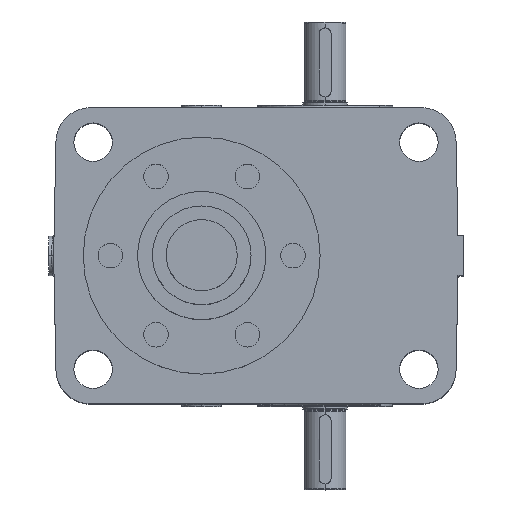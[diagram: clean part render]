
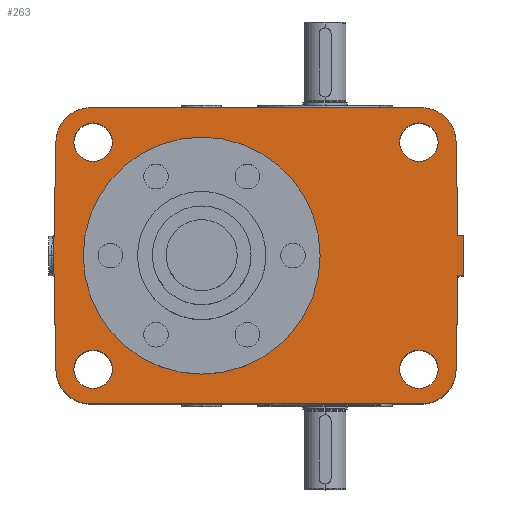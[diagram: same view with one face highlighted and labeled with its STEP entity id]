
A CAD part, top view. The second image highlights one B-rep face of the part: STEP entity #263.
In plain terms, the highlighted planar face has unit normal (0, 0, 1).
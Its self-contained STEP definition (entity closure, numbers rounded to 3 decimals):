
#263=ADVANCED_FACE('',(#931,#932,#933,#934,#935,#936),#937,.T.);
#931=FACE_OUTER_BOUND('',#3171,.T.);
#932=FACE_BOUND('',#3172,.T.);
#933=FACE_BOUND('',#3173,.T.);
#934=FACE_BOUND('',#3174,.T.);
#935=FACE_BOUND('',#3175,.T.);
#936=FACE_BOUND('',#3176,.T.);
#937=PLANE('',#3177);
#3171=EDGE_LOOP('',(#7116,#7117,#7118,#7119,#7120,#7121,#7122,#7123,#7124,#7125,#7126,#7127,#7128));
#3172=EDGE_LOOP('',(#7129,#7130));
#3173=EDGE_LOOP('',(#7131,#7132));
#3174=EDGE_LOOP('',(#7133,#7134));
#3175=EDGE_LOOP('',(#7135,#7136));
#3176=EDGE_LOOP('',(#7137,#7138));
#3177=AXIS2_PLACEMENT_3D('',#7139,#7140,#7141);
#7116=ORIENTED_EDGE('',*,*,#9860,.T.);
#7117=ORIENTED_EDGE('',*,*,#9773,.T.);
#7118=ORIENTED_EDGE('',*,*,#9782,.T.);
#7119=ORIENTED_EDGE('',*,*,#9794,.F.);
#7120=ORIENTED_EDGE('',*,*,#9833,.T.);
#7121=ORIENTED_EDGE('',*,*,#9843,.T.);
#7122=ORIENTED_EDGE('',*,*,#9712,.T.);
#7123=ORIENTED_EDGE('',*,*,#9709,.F.);
#7124=ORIENTED_EDGE('',*,*,#9844,.F.);
#7125=ORIENTED_EDGE('',*,*,#9792,.T.);
#7126=ORIENTED_EDGE('',*,*,#9768,.T.);
#7127=ORIENTED_EDGE('',*,*,#9865,.T.);
#7128=ORIENTED_EDGE('',*,*,#9863,.T.);
#7129=ORIENTED_EDGE('',*,*,#9897,.T.);
#7130=ORIENTED_EDGE('',*,*,#9457,.T.);
#7131=ORIENTED_EDGE('',*,*,#9641,.T.);
#7132=ORIENTED_EDGE('',*,*,#9898,.T.);
#7133=ORIENTED_EDGE('',*,*,#9633,.T.);
#7134=ORIENTED_EDGE('',*,*,#9899,.T.);
#7135=ORIENTED_EDGE('',*,*,#9625,.T.);
#7136=ORIENTED_EDGE('',*,*,#9900,.T.);
#7137=ORIENTED_EDGE('',*,*,#9617,.T.);
#7138=ORIENTED_EDGE('',*,*,#9901,.T.);
#7139=CARTESIAN_POINT('',(55.0,0.,300.0));
#7140=DIRECTION('',(0.0,0.0,1.0));
#7141=DIRECTION('',(1.0,0.0,0.0));
#9457=EDGE_CURVE('',#10816,#10814,#10817,.T.);
#9617=EDGE_CURVE('',#11112,#11116,#11118,.T.);
#9625=EDGE_CURVE('',#11128,#11132,#11134,.T.);
#9633=EDGE_CURVE('',#11144,#11148,#11150,.T.);
#9641=EDGE_CURVE('',#11160,#11164,#11166,.T.);
#9709=EDGE_CURVE('',#11278,#11279,#11280,.T.);
#9712=EDGE_CURVE('',#11283,#11279,#11284,.T.);
#9768=EDGE_CURVE('',#11372,#11373,#11374,.T.);
#9773=EDGE_CURVE('',#11377,#11379,#11381,.T.);
#9782=EDGE_CURVE('',#11379,#11395,#11396,.T.);
#9792=EDGE_CURVE('',#11411,#11372,#11412,.T.);
#9794=EDGE_CURVE('',#11414,#11395,#11415,.T.);
#9833=EDGE_CURVE('',#11414,#11480,#11481,.T.);
#9843=EDGE_CURVE('',#11480,#11283,#11495,.T.);
#9844=EDGE_CURVE('',#11411,#11278,#11496,.T.);
#9860=EDGE_CURVE('',#11525,#11377,#11526,.T.);
#9863=EDGE_CURVE('',#11528,#11525,#11530,.T.);
#9865=EDGE_CURVE('',#11373,#11528,#11532,.T.);
#9897=EDGE_CURVE('',#10814,#10816,#11582,.T.);
#9898=EDGE_CURVE('',#11164,#11160,#11583,.T.);
#9899=EDGE_CURVE('',#11148,#11144,#11584,.T.);
#9900=EDGE_CURVE('',#11132,#11128,#11585,.T.);
#9901=EDGE_CURVE('',#11116,#11112,#11586,.T.);
#10814=VERTEX_POINT('',#15922);
#10816=VERTEX_POINT('',#15925);
#10817=CIRCLE('',#15926,111.402);
#11112=VERTEX_POINT('',#18201);
#11116=VERTEX_POINT('',#18206);
#11118=CIRCLE('',#18209,19.5);
#11128=VERTEX_POINT('',#18221);
#11132=VERTEX_POINT('',#18226);
#11134=CIRCLE('',#18229,19.5);
#11144=VERTEX_POINT('',#18241);
#11148=VERTEX_POINT('',#18246);
#11150=CIRCLE('',#18249,19.5);
#11160=VERTEX_POINT('',#18261);
#11164=VERTEX_POINT('',#18266);
#11166=CIRCLE('',#18269,19.5);
#11278=VERTEX_POINT('',#18945);
#11279=VERTEX_POINT('',#18946);
#11280=CIRCLE('',#18947,35.0);
#11283=VERTEX_POINT('',#18952);
#11284=LINE('',#18953,#18954);
#11372=VERTEX_POINT('',#19554);
#11373=VERTEX_POINT('',#19555);
#11374=LINE('',#19556,#19557);
#11377=VERTEX_POINT('',#19562);
#11379=VERTEX_POINT('',#19565);
#11381=LINE('',#19568,#19569);
#11395=VERTEX_POINT('',#19737);
#11396=CIRCLE('',#19738,35.0);
#11411=VERTEX_POINT('',#19896);
#11412=CIRCLE('',#19897,35.0);
#11414=VERTEX_POINT('',#19900);
#11415=LINE('',#19901,#19902);
#11480=VERTEX_POINT('',#20877);
#11481=CIRCLE('',#20878,35.0);
#11495=LINE('',#21125,#21126);
#11496=LINE('',#21127,#21128);
#11525=VERTEX_POINT('',#21758);
#11526=LINE('',#21759,#21760);
#11528=VERTEX_POINT('',#21763);
#11530=LINE('',#21766,#21767);
#11532=LINE('',#21769,#21770);
#11582=CIRCLE('',#22162,111.402);
#11583=CIRCLE('',#22163,19.5);
#11584=CIRCLE('',#22164,19.5);
#11585=CIRCLE('',#22165,19.5);
#11586=CIRCLE('',#22166,19.5);
#15922=CARTESIAN_POINT('',(111.402,0.0,300.0));
#15925=CARTESIAN_POINT('',(-111.402,0.,300.0));
#15926=AXIS2_PLACEMENT_3D('',#27224,#27225,#27226);
#18201=CARTESIAN_POINT('',(220.0,134.5,300.0));
#18206=CARTESIAN_POINT('',(220.0,95.5,300.0));
#18209=AXIS2_PLACEMENT_3D('',#27428,#27429,#27430);
#18221=CARTESIAN_POINT('',(-110.0,134.5,300.0));
#18226=CARTESIAN_POINT('',(-110.0,95.5,300.0));
#18229=AXIS2_PLACEMENT_3D('',#27444,#27445,#27446);
#18241=CARTESIAN_POINT('',(220.0,-95.5,300.0));
#18246=CARTESIAN_POINT('',(220.0,-134.5,300.0));
#18249=AXIS2_PLACEMENT_3D('',#27460,#27461,#27462);
#18261=CARTESIAN_POINT('',(-110.0,-95.5,300.0));
#18266=CARTESIAN_POINT('',(-110.0,-134.5,300.0));
#18269=AXIS2_PLACEMENT_3D('',#27476,#27477,#27478);
#18945=CARTESIAN_POINT('',(-112.693,-150.0,300.0));
#18946=CARTESIAN_POINT('',(-147.686,-115.7,300.0));
#18947=AXIS2_PLACEMENT_3D('',#27565,#27566,#27567);
#18952=CARTESIAN_POINT('',(-150.0,0.,300.0));
#18953=CARTESIAN_POINT('',(-150.0,0.,300.0));
#18954=VECTOR('',#27570,1000.0);
#19554=CARTESIAN_POINT('',(257.686,-115.7,300.0));
#19555=CARTESIAN_POINT('',(259.6,-20.0,300.0));
#19556=CARTESIAN_POINT('',(257.686,-115.7,300.0));
#19557=VECTOR('',#27620,1000.0);
#19562=CARTESIAN_POINT('',(259.6,20.0,300.0));
#19565=CARTESIAN_POINT('',(257.686,115.7,300.0));
#19568=CARTESIAN_POINT('',(259.6,20.0,300.0));
#19569=VECTOR('',#27625,1000.0);
#19737=CARTESIAN_POINT('',(222.693,150.0,300.0));
#19738=AXIS2_PLACEMENT_3D('',#27630,#27631,#27632);
#19896=CARTESIAN_POINT('',(222.693,-150.0,300.0));
#19897=AXIS2_PLACEMENT_3D('',#27638,#27639,#27640);
#19900=CARTESIAN_POINT('',(-112.693,150.0,300.0));
#19901=CARTESIAN_POINT('',(-150.0,150.0,300.0));
#19902=VECTOR('',#27642,1000.0);
#20877=CARTESIAN_POINT('',(-147.686,115.7,300.0));
#20878=AXIS2_PLACEMENT_3D('',#27685,#27686,#27687);
#21125=CARTESIAN_POINT('',(-147.0,150.0,300.0));
#21126=VECTOR('',#27693,1000.0);
#21127=CARTESIAN_POINT('',(260.0,-150.0,300.0));
#21128=VECTOR('',#27694,1000.0);
#21758=CARTESIAN_POINT('',(265.0,20.0,300.0));
#21759=CARTESIAN_POINT('',(55.0,20.0,300.0));
#21760=VECTOR('',#27704,1000.0);
#21763=CARTESIAN_POINT('',(265.0,-20.0,300.0));
#21766=CARTESIAN_POINT('',(265.0,0.,300.0));
#21767=VECTOR('',#27707,1000.0);
#21769=CARTESIAN_POINT('',(55.0,-20.0,300.0));
#21770=VECTOR('',#27711,1000.0);
#22162=AXIS2_PLACEMENT_3D('',#27717,#27718,#27719);
#22163=AXIS2_PLACEMENT_3D('',#27720,#27721,#27722);
#22164=AXIS2_PLACEMENT_3D('',#27723,#27724,#27725);
#22165=AXIS2_PLACEMENT_3D('',#27726,#27727,#27728);
#22166=AXIS2_PLACEMENT_3D('',#27729,#27730,#27731);
#27224=CARTESIAN_POINT('',(0.0,0.0,300.0));
#27225=DIRECTION('',(0.0,0.0,-1.0));
#27226=DIRECTION('',(1.0,0.0,0.0));
#27428=CARTESIAN_POINT('',(220.0,115.0,300.0));
#27429=DIRECTION('',(0.,0.0,-1.0));
#27430=DIRECTION('',(0.0,1.0,0.0));
#27444=CARTESIAN_POINT('',(-110.0,115.0,300.0));
#27445=DIRECTION('',(0.,0.0,-1.0));
#27446=DIRECTION('',(0.0,1.0,0.0));
#27460=CARTESIAN_POINT('',(220.0,-115.0,300.0));
#27461=DIRECTION('',(0.,0.0,-1.0));
#27462=DIRECTION('',(0.0,1.0,0.0));
#27476=CARTESIAN_POINT('',(-110.0,-115.0,300.0));
#27477=DIRECTION('',(0.,0.0,-1.0));
#27478=DIRECTION('',(0.0,1.0,0.0));
#27565=CARTESIAN_POINT('',(-112.693,-115.0,300.0));
#27566=DIRECTION('',(0.0,0.0,-1.0));
#27567=DIRECTION('',(-1.0,0.0,0.0));
#27570=DIRECTION('',(0.02,-1.,-0.0));
#27620=DIRECTION('',(0.02,1.,0.0));
#27625=DIRECTION('',(-0.02,1.,0.0));
#27630=CARTESIAN_POINT('',(222.693,115.0,300.0));
#27631=DIRECTION('',(0.0,0.0,1.0));
#27632=DIRECTION('',(-1.0,0.0,0.0));
#27638=CARTESIAN_POINT('',(222.693,-115.0,300.0));
#27639=DIRECTION('',(0.0,0.0,1.0));
#27640=DIRECTION('',(1.0,0.0,0.0));
#27642=DIRECTION('',(1.0,0.,-0.0));
#27685=CARTESIAN_POINT('',(-112.693,115.0,300.0));
#27686=DIRECTION('',(0.0,0.0,1.0));
#27687=DIRECTION('',(1.0,0.0,0.0));
#27693=DIRECTION('',(-0.02,-1.,-0.0));
#27694=DIRECTION('',(-1.0,-0.0,-0.0));
#27704=DIRECTION('',(-1.0,-0.0,0.0));
#27707=DIRECTION('',(-0.0,1.0,0.0));
#27711=DIRECTION('',(1.0,0.0,-0.0));
#27717=CARTESIAN_POINT('',(0.0,0.0,300.0));
#27718=DIRECTION('',(0.0,0.0,-1.0));
#27719=DIRECTION('',(1.0,0.0,0.0));
#27720=CARTESIAN_POINT('',(-110.0,-115.0,300.0));
#27721=DIRECTION('',(0.,0.0,-1.0));
#27722=DIRECTION('',(0.0,1.0,0.0));
#27723=CARTESIAN_POINT('',(220.0,-115.0,300.0));
#27724=DIRECTION('',(0.,0.0,-1.0));
#27725=DIRECTION('',(0.0,1.0,0.0));
#27726=CARTESIAN_POINT('',(-110.0,115.0,300.0));
#27727=DIRECTION('',(0.,0.0,-1.0));
#27728=DIRECTION('',(0.0,1.0,0.0));
#27729=CARTESIAN_POINT('',(220.0,115.0,300.0));
#27730=DIRECTION('',(0.,0.0,-1.0));
#27731=DIRECTION('',(0.0,1.0,0.0));
